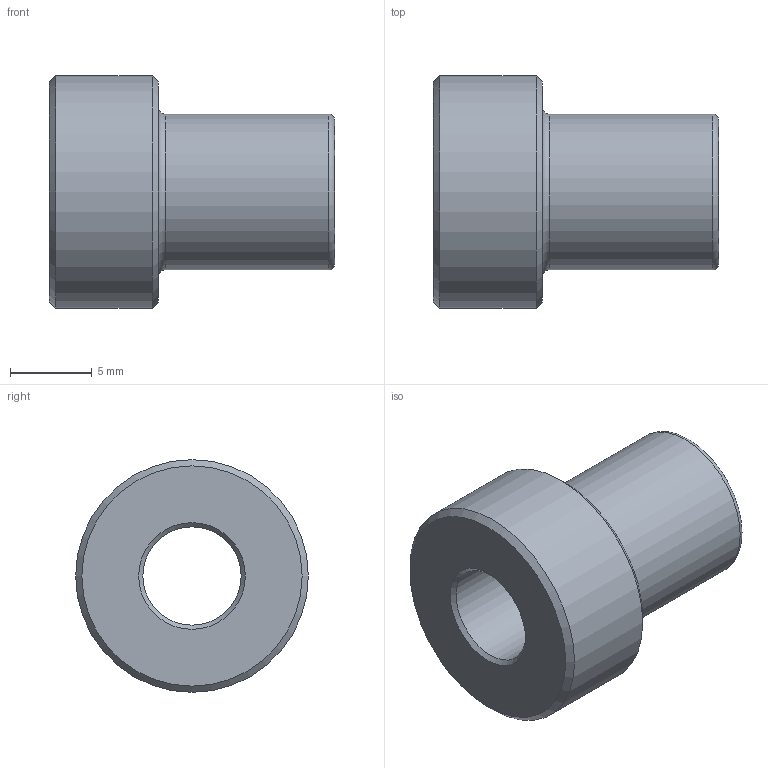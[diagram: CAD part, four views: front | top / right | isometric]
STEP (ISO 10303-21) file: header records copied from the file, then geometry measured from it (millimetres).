
FILE_DESCRIPTION( ( 'STEP AP214' ), '1' );
FILE_NAME( 'p:/temp/worker_51/temp/app_48_02019012316253624954306192d056f_000000_00_00_000000/format_0/MB2SS.stp', '2019-01-23T15:25:36', ( '' ), ( '' ), ' ', 'PARTsolutions', ' ' );
FILE_SCHEMA( ( 'AUTOMOTIVE_DESIGN { 1 0 10303 214 1 1 1 1 }' ) );
Length unit declared in the file: inch
Products named in the file (1): _MB2SS
Bounding box: 17.4 x 14.2 x 14.2 mm (x, y, z)
Volume: 1318.9 mm3; surface area: 1170.5 mm2
Topology: 1 solids, 1 shells, 12 faces, 21 edges, 12 vertices
Faces by surface type: cone 4, plane 3, cylinder 3, torus 2
Full cylindrical faces by diameter (mm): 6 x1, 9.52 x1, 14.2 x1
Entity records: 360 total; most frequent: DIRECTION 50, CARTESIAN_POINT 37, AXIS2_PLACEMENT_3D 25, EDGE_LOOP 24, ORIENTED_EDGE 24, FACE_OUTER_BOUND 17, STYLED_ITEM 12, PRESENTATION_STYLE_ASSIGNMENT 12
